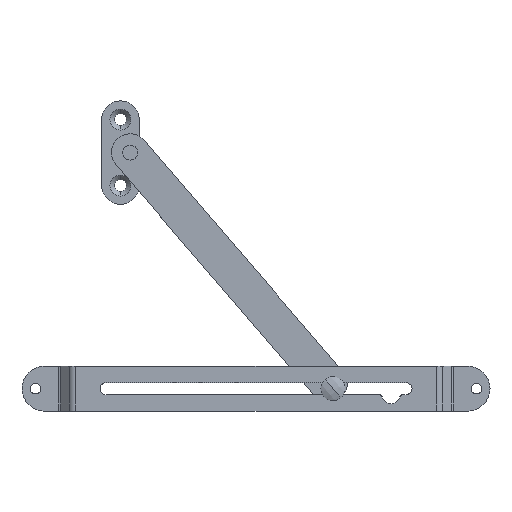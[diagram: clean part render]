
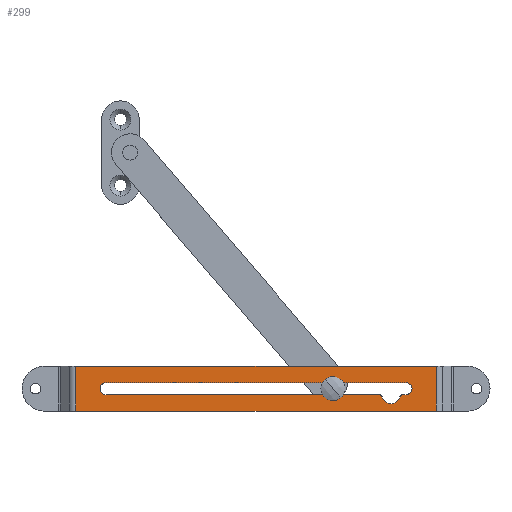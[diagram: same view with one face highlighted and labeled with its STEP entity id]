
A CAD part, top view. The second image highlights one B-rep face of the part: STEP entity #299.
In plain terms, the highlighted planar face has unit normal (0, 0, 1).
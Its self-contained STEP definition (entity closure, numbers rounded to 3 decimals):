
#10 = EDGE_CURVE ( 'NONE', #2623, #452, #598, .T. ) ;
#53 = ORIENTED_EDGE ( 'NONE', *, *, #143, .F. ) ;
#66 = ORIENTED_EDGE ( 'NONE', *, *, #2752, .T. ) ;
#122 = VERTEX_POINT ( 'NONE', #1337 ) ;
#136 = EDGE_CURVE ( 'NONE', #122, #2665, #1471, .T. ) ;
#143 = EDGE_CURVE ( 'NONE', #321, #1016, #1499, .T. ) ;
#197 = EDGE_CURVE ( 'NONE', #2612, #1247, #1853, .T. ) ;
#213 = VERTEX_POINT ( 'NONE', #1920 ) ;
#242 = VERTEX_POINT ( 'NONE', #2017 ) ;
#255 = ORIENTED_EDGE ( 'NONE', *, *, #2631, .F. ) ;
#270 = ORIENTED_EDGE ( 'NONE', *, *, #980, .F. ) ;
#271 = ORIENTED_EDGE ( 'NONE', *, *, #2634, .F. ) ;
#299 = ADVANCED_FACE ( 'NONE', ( #1066, #1067 ), #1068, .F. ) ;
#321 = VERTEX_POINT ( 'NONE', #1257 ) ;
#337 = VERTEX_POINT ( 'NONE', #1379 ) ;
#385 = EDGE_CURVE ( 'NONE', #337, #321, #1748, .T. ) ;
#389 = ORIENTED_EDGE ( 'NONE', *, *, #197, .F. ) ;
#417 = ORIENTED_EDGE ( 'NONE', *, *, #385, .F. ) ;
#422 = EDGE_LOOP ( 'NONE', ( #979, #2063, #1822, #66 ) ) ;
#449 = EDGE_CURVE ( 'NONE', #452, #337, #708, .T. ) ;
#450 = ORIENTED_EDGE ( 'NONE', *, *, #513, .F. ) ;
#452 = VERTEX_POINT ( 'NONE', #728 ) ;
#456 = EDGE_CURVE ( 'NONE', #1434, #213, #734, .T. ) ;
#490 = ORIENTED_EDGE ( 'NONE', *, *, #449, .F. ) ;
#512 = ORIENTED_EDGE ( 'NONE', *, *, #10, .F. ) ;
#513 = EDGE_CURVE ( 'NONE', #1247, #2623, #1009, .T. ) ;
#598 = CIRCLE ( 'NONE', #599, 2. ) ;
#599 = AXIS2_PLACEMENT_3D ( 'NONE', #600, #601, #602 ) ;
#600 = CARTESIAN_POINT ( 'NONE',  ( 128., 7.5, 6. ) ) ;
#601 = DIRECTION ( 'NONE',  ( 0., 0., 1. ) ) ;
#602 = DIRECTION ( 'NONE',  ( -1., 0., 0. ) ) ;
#708 = LINE ( 'NONE', #709, #710 ) ;
#709 = CARTESIAN_POINT ( 'NONE',  ( 28., 9.5, 6. ) ) ;
#710 = VECTOR ( 'NONE', #711, 1000. ) ;
#711 = DIRECTION ( 'NONE',  ( -1., 0., 0. ) ) ;
#728 = CARTESIAN_POINT ( 'NONE',  ( 128., 9.5, 6. ) ) ;
#734 = LINE ( 'NONE', #737, #738 ) ;
#737 = CARTESIAN_POINT ( 'NONE',  ( 139.3, 0., 6. ) ) ;
#738 = VECTOR ( 'NONE', #739, 1000. ) ;
#739 = DIRECTION ( 'NONE',  ( 1., 0., 0. ) ) ;
#796 = LINE ( 'NONE', #797, #798 ) ;
#797 = CARTESIAN_POINT ( 'NONE',  ( 17.943, 15., 6. ) ) ;
#798 = VECTOR ( 'NONE', #799, 1000. ) ;
#799 = DIRECTION ( 'NONE',  ( 0., -1., 0. ) ) ;
#979 = ORIENTED_EDGE ( 'NONE', *, *, #456, .T. ) ;
#980 = EDGE_CURVE ( 'NONE', #1016, #242, #1411, .T. ) ;
#1009 = CIRCLE ( 'NONE', #1010, 2. ) ;
#1010 = AXIS2_PLACEMENT_3D ( 'NONE', #1011, #1012, #1013 ) ;
#1011 = CARTESIAN_POINT ( 'NONE',  ( 128., 7.5, 6. ) ) ;
#1012 = DIRECTION ( 'NONE',  ( 0., 0., 1. ) ) ;
#1013 = DIRECTION ( 'NONE',  ( -1., 0., 0. ) ) ;
#1016 = VERTEX_POINT ( 'NONE', #1442 ) ;
#1023 = CARTESIAN_POINT ( 'NONE',  ( 125.905, 4.75, 6. ) ) ;
#1066 = FACE_BOUND ( 'NONE', #2693, .T. ) ;
#1067 = FACE_OUTER_BOUND ( 'NONE', #422, .T. ) ;
#1068 = PLANE ( 'NONE',  #1069 ) ;
#1069 = AXIS2_PLACEMENT_3D ( 'NONE', #1070, #1071, #1072 ) ;
#1070 = CARTESIAN_POINT ( 'NONE',  ( 139.3, 15., 6. ) ) ;
#1071 = DIRECTION ( 'NONE',  ( 0., 0., -1. ) ) ;
#1072 = DIRECTION ( 'NONE',  ( -1., 0., 0. ) ) ;
#1121 = CARTESIAN_POINT ( 'NONE',  ( 126.873, 5.5, 6. ) ) ;
#1214 = CARTESIAN_POINT ( 'NONE',  ( 130., 7.5, 6. ) ) ;
#1233 = CIRCLE ( 'NONE', #1234, 1. ) ;
#1234 = AXIS2_PLACEMENT_3D ( 'NONE', #1235, #1236, #1237 ) ;
#1235 = CARTESIAN_POINT ( 'NONE',  ( 126.873, 4.5, 6. ) ) ;
#1236 = DIRECTION ( 'NONE',  ( 0., 0., -1. ) ) ;
#1237 = DIRECTION ( 'NONE',  ( 1., 0., 0. ) ) ;
#1247 = VERTEX_POINT ( 'NONE', #1630 ) ;
#1257 = CARTESIAN_POINT ( 'NONE',  ( 28., 5.5, 6. ) ) ;
#1258 = CIRCLE ( 'NONE', #1259, 3. ) ;
#1259 = AXIS2_PLACEMENT_3D ( 'NONE', #1260, #1261, #1262 ) ;
#1260 = CARTESIAN_POINT ( 'NONE',  ( 123., 5.5, 6. ) ) ;
#1261 = DIRECTION ( 'NONE',  ( 0., 0., 1. ) ) ;
#1262 = DIRECTION ( 'NONE',  ( 1., 0., 0. ) ) ;
#1337 = CARTESIAN_POINT ( 'NONE',  ( 17.943, 15., 6. ) ) ;
#1379 = CARTESIAN_POINT ( 'NONE',  ( 28., 9.5, 6. ) ) ;
#1411 = CIRCLE ( 'NONE', #1412, 1. ) ;
#1412 = AXIS2_PLACEMENT_3D ( 'NONE', #1413, #1414, #1415 ) ;
#1413 = CARTESIAN_POINT ( 'NONE',  ( 119.127, 4.5, 6. ) ) ;
#1414 = DIRECTION ( 'NONE',  ( 0., 0., -1. ) ) ;
#1415 = DIRECTION ( 'NONE',  ( 1., 0., 0. ) ) ;
#1434 = VERTEX_POINT ( 'NONE', #1765 ) ;
#1441 = CARTESIAN_POINT ( 'NONE',  ( 138.057, 15., 6. ) ) ;
#1442 = CARTESIAN_POINT ( 'NONE',  ( 119.127, 5.5, 6. ) ) ;
#1471 = LINE ( 'NONE', #1472, #1473 ) ;
#1472 = CARTESIAN_POINT ( 'NONE',  ( 139.3, 15., 6. ) ) ;
#1473 = VECTOR ( 'NONE', #1474, 1000. ) ;
#1474 = DIRECTION ( 'NONE',  ( 1., 0., 0. ) ) ;
#1485 = LINE ( 'NONE', #1486, #1488 ) ;
#1486 = CARTESIAN_POINT ( 'NONE',  ( 138.057, 15., 6. ) ) ;
#1488 = VECTOR ( 'NONE', #1489, 1000. ) ;
#1489 = DIRECTION ( 'NONE',  ( 0., 1., 0. ) ) ;
#1499 = LINE ( 'NONE', #1500, #1501 ) ;
#1500 = CARTESIAN_POINT ( 'NONE',  ( 28., 5.5, 6. ) ) ;
#1501 = VECTOR ( 'NONE', #1502, 1000. ) ;
#1502 = DIRECTION ( 'NONE',  ( 1., 0., 0. ) ) ;
#1630 = CARTESIAN_POINT ( 'NONE',  ( 128., 5.5, 6. ) ) ;
#1748 = CIRCLE ( 'NONE', #1749, 2. ) ;
#1749 = AXIS2_PLACEMENT_3D ( 'NONE', #1750, #1751, #1752 ) ;
#1750 = CARTESIAN_POINT ( 'NONE',  ( 28., 7.5, 6. ) ) ;
#1751 = DIRECTION ( 'NONE',  ( 0., 0., 1. ) ) ;
#1752 = DIRECTION ( 'NONE',  ( -1., 0., 0. ) ) ;
#1765 = CARTESIAN_POINT ( 'NONE',  ( 17.943, 0., 6. ) ) ;
#1822 = ORIENTED_EDGE ( 'NONE', *, *, #136, .F. ) ;
#1853 = LINE ( 'NONE', #1854, #1855 ) ;
#1854 = CARTESIAN_POINT ( 'NONE',  ( 126.873, 5.5, 6. ) ) ;
#1855 = VECTOR ( 'NONE', #1856, 1000. ) ;
#1856 = DIRECTION ( 'NONE',  ( 1., 0., 0. ) ) ;
#1920 = CARTESIAN_POINT ( 'NONE',  ( 138.057, 0., 6. ) ) ;
#2017 = CARTESIAN_POINT ( 'NONE',  ( 120.095, 4.75, 6. ) ) ;
#2063 = ORIENTED_EDGE ( 'NONE', *, *, #2669, .T. ) ;
#2600 = VERTEX_POINT ( 'NONE', #1023 ) ;
#2612 = VERTEX_POINT ( 'NONE', #1121 ) ;
#2623 = VERTEX_POINT ( 'NONE', #1214 ) ;
#2631 = EDGE_CURVE ( 'NONE', #2600, #2612, #1233, .T. ) ;
#2634 = EDGE_CURVE ( 'NONE', #242, #2600, #1258, .T. ) ;
#2665 = VERTEX_POINT ( 'NONE', #1441 ) ;
#2669 = EDGE_CURVE ( 'NONE', #213, #2665, #1485, .T. ) ;
#2693 = EDGE_LOOP ( 'NONE', ( #417, #490, #512, #450, #389, #255, #271, #270, #53 ) ) ;
#2752 = EDGE_CURVE ( 'NONE', #122, #1434, #796, .T. ) ;
